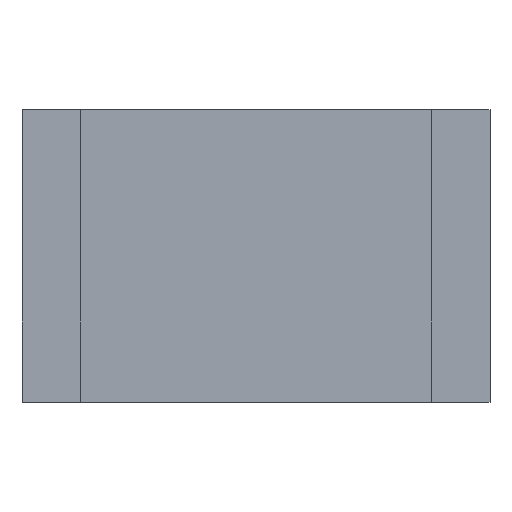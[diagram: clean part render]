
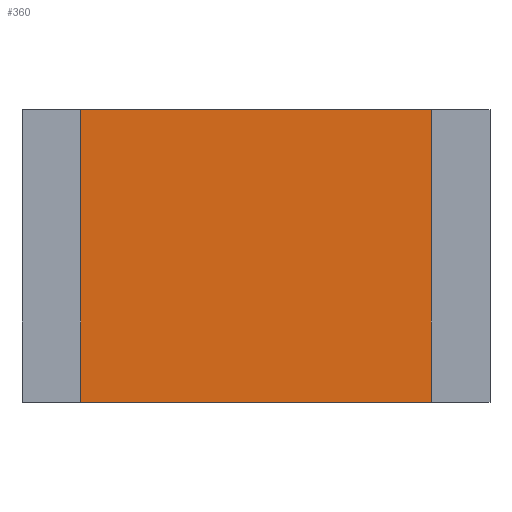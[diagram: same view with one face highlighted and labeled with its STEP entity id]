
A CAD part, top view. The second image highlights one B-rep face of the part: STEP entity #360.
In plain terms, the highlighted planar face has unit normal (0, 0, 1).
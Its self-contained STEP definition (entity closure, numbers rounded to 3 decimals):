
#360=ADVANCED_FACE('',(#759),#761,.T.);
#759=FACE_BOUND('',#760,.T.);
#760=EDGE_LOOP('',(#1046,#1047,#1048,#1049));
#761=PLANE('',#762);
#762=AXIS2_PLACEMENT_3D('',#763,#764,#765);
#763=CARTESIAN_POINT('',(0.,0.,0.495));
#764=DIRECTION('',(0.,0.,1.));
#765=DIRECTION('',(-1.,0.,0.));
#1046=ORIENTED_EDGE('',*,*,#1218,.T.);
#1047=ORIENTED_EDGE('',*,*,#1222,.T.);
#1048=ORIENTED_EDGE('',*,*,#1225,.T.);
#1049=ORIENTED_EDGE('',*,*,#1227,.T.);
#1218=EDGE_CURVE('',#1384,#1382,#1385,.T.);
#1222=EDGE_CURVE('',#1382,#1389,#1391,.T.);
#1225=EDGE_CURVE('',#1389,#1394,#1396,.T.);
#1227=EDGE_CURVE('',#1394,#1384,#1398,.T.);
#1382=VERTEX_POINT('',#1709);
#1384=VERTEX_POINT('',#1713);
#1385=LINE('',#1714,#1715);
#1389=VERTEX_POINT('',#1724);
#1391=LINE('',#1728,#1729);
#1394=VERTEX_POINT('',#1735);
#1396=LINE('',#1739,#1740);
#1398=LINE('',#1745,#1746);
#1709=CARTESIAN_POINT('',(-0.75,0.625,0.495));
#1713=CARTESIAN_POINT('',(0.75,0.625,0.495));
#1714=CARTESIAN_POINT('',(0.75,0.625,0.495));
#1715=VECTOR('',#1716,1.);
#1716=DIRECTION('',(-1.,0.,0.));
#1724=CARTESIAN_POINT('',(-0.75,-0.625,0.495));
#1728=CARTESIAN_POINT('',(-0.75,0.625,0.495));
#1729=VECTOR('',#1730,1.);
#1730=DIRECTION('',(0.,-1.,0.));
#1735=CARTESIAN_POINT('',(0.75,-0.625,0.495));
#1739=CARTESIAN_POINT('',(-0.75,-0.625,0.495));
#1740=VECTOR('',#1741,1.);
#1741=DIRECTION('',(1.,0.,0.));
#1745=CARTESIAN_POINT('',(0.75,-0.625,0.495));
#1746=VECTOR('',#1747,1.);
#1747=DIRECTION('',(0.,1.,0.));
